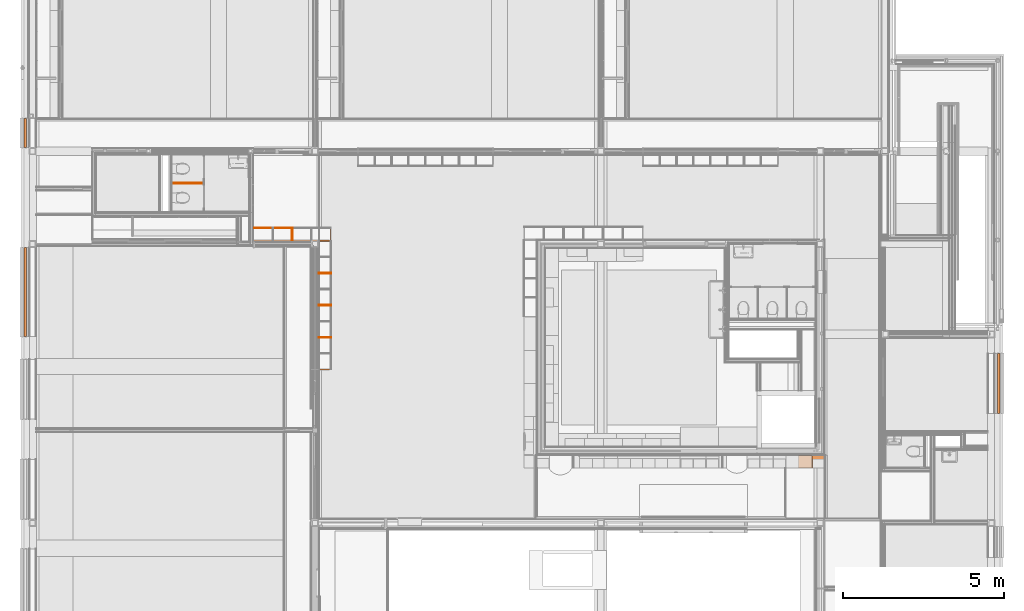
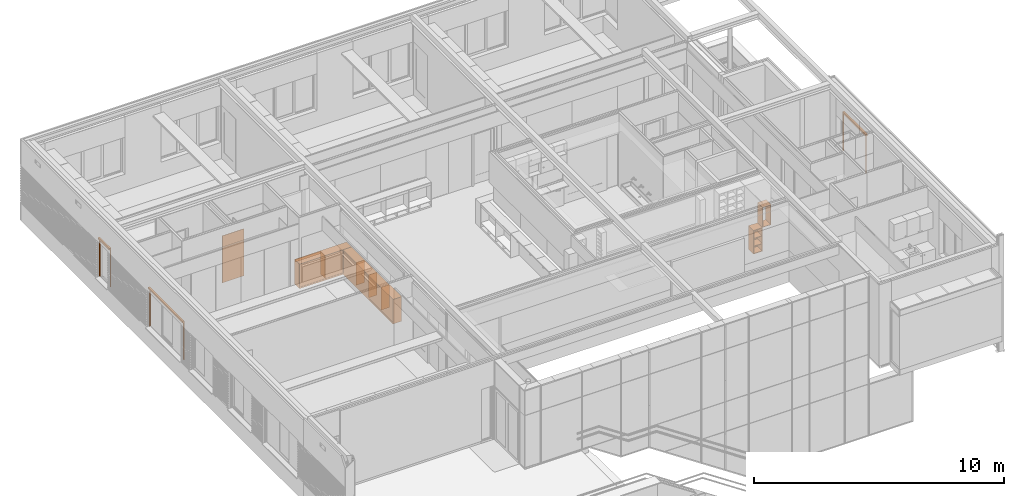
# One storey, part 132 of 137: 13 proxies.
"""IFC2X3 building model written with IfcOpenShell, lengths in millimetres."""

from ifc_helpers import new_model, entity, si_unit, converted_unit, derived_unit, money_unit, direction, frame, origin_with_axes, place, context, subcontext, project, spatial, open_shell, faceted_brep, surface_model, material, type_object, element, save


model = new_model("IFC2X3")

# Units and contexts
model_context = context("Model", 3, precision=0.01, world=origin_with_axes(), true_north=direction((0.0, 1.0)))
body_context = subcontext(model_context, "Body", "Model", "MODEL_VIEW")
ifc_project = project(units=[si_unit("LENGTHUNIT", "METRE", prefix="MILLI"), si_unit("AREAUNIT", "SQUARE_METRE"), si_unit("VOLUMEUNIT", "CUBIC_METRE"), converted_unit("PLANEANGLEUNIT", "DEGREE", entity("IfcPlaneAngleMeasure", 0.0174532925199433), si_unit("PLANEANGLEUNIT", "RADIAN"), dimensions=[0, 0, 0, 0, 0, 0, 0]), money_unit("EUR"), converted_unit("TIMEUNIT", "Year", entity("IfcTimeMeasure", 31556926.0), si_unit("TIMEUNIT", "SECOND"), dimensions=[0, 0, 1, 0, 0, 0, 0]), si_unit("MASSUNIT", "GRAM", prefix="KILO"), si_unit("THERMODYNAMICTEMPERATUREUNIT", "DEGREE_CELSIUS"), si_unit("LUMINOUSINTENSITYUNIT", "LUMEN"), si_unit("ENERGYUNIT", "JOULE", prefix="MEGA"), derived_unit("THERMALCONDUCTANCEUNIT", [(si_unit("POWERUNIT", "WATT"), 1), (si_unit("LENGTHUNIT", "METRE"), -1), (si_unit("THERMODYNAMICTEMPERATUREUNIT", "KELVIN"), -1)]), derived_unit("SPECIFICHEATCAPACITYUNIT", [(si_unit("ENERGYUNIT", "JOULE"), 1), (si_unit("MASSUNIT", "GRAM", prefix="KILO"), -1), (si_unit("THERMODYNAMICTEMPERATUREUNIT", "KELVIN"), -1)]), derived_unit("MASSDENSITYUNIT", [(si_unit("MASSUNIT", "GRAM", prefix="KILO"), 1), (si_unit("VOLUMEUNIT", "CUBIC_METRE"), -1)])], contexts=[model_context])

# Site, building, storey
site_placement = place(None, origin_with_axes())
site = spatial("IfcSite", under=ifc_project, at=site_placement, Name="Site", CompositionType="ELEMENT")
building_placement = place(site_placement, origin_with_axes())
building = spatial("IfcBuilding", under=site, at=building_placement, Name="Naam gebouw", CompositionType="ELEMENT")
storey_placement = place(building_placement, frame((0.0, 0.0, 3960.0), z_axis=(0.0, 0.0, 1.0), x_axis=(1.0, 0.0, 0.0)))
storey = spatial("IfcBuildingStorey", under=building, at=storey_placement, Name="1e verdieping", CompositionType="ELEMENT", Elevation=3960.0)

# Proxies
ifc_material_1 = material(Name="ALG - ALGEMEEN")
building_element_proxy_type_1 = type_object("IfcBuildingElementProxyType", Name="ALG - ALGEMEEN 20", PredefinedType="NOTDEFINED")
proxy_1_placement = place(storey_placement, frame((5405.000000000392, 21329.97621406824, 99.99999999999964), z_axis=(0.0, 0.0, 1.0), x_axis=(-1.0, 0.0, 0.0)))
element("IfcBuildingElementProxy", 1, at=proxy_1_placement, inside=storey, type_object=building_element_proxy_type_1, material=ifc_material_1, Name="_Wand-x", context=body_context, shape_type="Brep", body=[
    faceted_brep([(1000.000000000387, -9.999999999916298, 2290.0), (1000.000000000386, 10.00000000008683, 2290.0), (10.00000000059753, 10.00000000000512, 2290.0), (10.00000000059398, -9.99999999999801, 2290.0), (1000.000000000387, -9.999999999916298, 0.0), (1000.000000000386, 10.00000000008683, 0.0), (10.00000000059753, 10.00000000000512, 0.0), (10.00000000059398, -9.99999999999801, 0.0)], [[[0, 1, 2, 3]], [[1, 0, 4, 5]], [[1, 5, 6, 2]], [[7, 3, 2, 6]], [[4, 0, 3, 7]], [[5, 4, 7, 6]]]),
])
ifc_material_2 = material(Name="Hout AFW")
building_element_proxy_type_2 = type_object("IfcBuildingElementProxyType", Name="Hout AFW 18", PredefinedType="NOTDEFINED")
proxy_2_placement = place(storey_placement, frame((8135.000015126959, 19950.00381393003, 1062.0), z_axis=(0.0, 0.0, 1.0), x_axis=(-1.0, 0.0, 0.0)))
element("IfcBuildingElementProxy", 2, at=proxy_2_placement, inside=storey, type_object=building_element_proxy_type_2, material=ifc_material_2, Name="i HOUT_Wand-x", context=body_context, shape_type="Brep", body=[
    faceted_brep([(0.0, 18.00000000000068, 0.0), (1175.000015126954, 18.00000000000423, 0.0), (1175.000015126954, 0.0, 0.0), (0.0, 0.0, 0.0), (0.0, 18.00000000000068, 117.9999999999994), (1175.000015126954, 18.00000000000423, 117.9999999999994), (1175.000015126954, 0.0, 117.9999999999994), (0.0, 0.0, 117.9999999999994)], [[[0, 1, 2, 3]], [[4, 5, 1, 0]], [[2, 1, 5, 6]], [[3, 2, 6, 7]], [[4, 0, 3, 7]], [[7, 6, 5, 4]]]),
])
building_element_proxy_type_3 = type_object("IfcBuildingElementProxyType", Name="Onderkast recht 26", PredefinedType="NOTDEFINED")
proxy_3_placement = place(storey_placement, frame((8950.000000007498, 19549.99981121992, 0.0), z_axis=(0.0, 0.0, 1.0), x_axis=(0.0, 1.0, 0.0)))
element("IfcBuildingElementProxy", 3, at=proxy_3_placement, inside=storey, type_object=building_element_proxy_type_3, Name="_Leeg", context=body_context, shape_type="Brep", body=[
    faceted_brep([(-20.0, -400.0000000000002, 50.0), (-20.0, -400.0000000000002, 70.0), (-3980.000071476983, -400.0000000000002, 70.0), (-3980.000071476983, -400.0000000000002, 50.0), (-20.0, 0.0, 50.0), (-20.0, 0.0, 70.0), (-3980.000071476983, 0.0, 70.0), (-3980.000071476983, 0.0, 50.0)], [[[0, 1, 2, 3]], [[4, 5, 1, 0]], [[1, 5, 6, 2]], [[3, 2, 6, 7]], [[0, 3, 7, 4]], [[7, 6, 5, 4]]]),
    faceted_brep([(-20.0, -400.0000000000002, 1180.0), (-20.0, -400.0000000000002, 1200.0), (-3980.000071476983, -400.0000000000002, 1200.0), (-3980.000071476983, -400.0000000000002, 1180.0), (-20.0, 0.0, 1180.0), (-20.0, 0.0, 1200.0), (-3980.000071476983, 0.0, 1200.0), (-3980.000071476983, 0.0, 1180.0)], [[[0, 1, 2, 3]], [[4, 5, 1, 0]], [[1, 5, 6, 2]], [[3, 2, 6, 7]], [[0, 3, 7, 4]], [[7, 6, 5, 4]]]),
    faceted_brep([(0.0, 0.0, 50.0), (0.0, 0.0, 1200.0), (0.0, -400.0000000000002, 1200.0), (0.0, -400.0000000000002, 50.0), (-20.0, 0.0, 50.0), (-20.0, 0.0, 1200.0), (-20.0, -400.0000000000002, 1200.0), (-20.0, -400.0000000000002, 50.0)], [[[0, 1, 2, 3]], [[4, 5, 1, 0]], [[1, 5, 6, 2]], [[3, 2, 6, 7]], [[0, 3, 7, 4]], [[7, 6, 5, 4]]]),
    faceted_brep([(-4000.000071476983, -400.0000000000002, 50.0), (-4000.000071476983, -400.0000000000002, 1200.0), (-4000.000071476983, 0.0, 1200.0), (-4000.000071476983, 0.0, 50.0), (-3980.000071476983, -400.0000000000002, 50.0), (-3980.000071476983, -400.0000000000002, 1200.0), (-3980.000071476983, 0.0, 1200.0), (-3980.000071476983, 0.0, 50.0)], [[[0, 1, 2, 3]], [[4, 5, 1, 0]], [[1, 5, 6, 2]], [[3, 2, 6, 7]], [[0, 3, 7, 4]], [[7, 6, 5, 4]]]),
    faceted_brep([(-3980.000071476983, -10.0, 70.0), (-3980.000071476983, -10.0, 1180.0), (-20.00000000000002, -10.0, 1180.0), (-20.00000000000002, -10.0, 70.0), (-3980.000071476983, -20.0, 70.0), (-3980.000071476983, -20.0, 1180.0), (-20.00000000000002, -20.0, 1180.0), (-20.00000000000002, -20.0, 70.0)], [[[0, 1, 2, 3]], [[4, 5, 1, 0]], [[1, 5, 6, 2]], [[3, 2, 6, 7]], [[0, 3, 7, 4]], [[7, 6, 5, 4]]]),
    faceted_brep([(0.0, -400.0000000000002, 0.0), (0.0, -400.0000000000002, 50.0), (-4000.000071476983, -400.0000000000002, 50.0), (-4000.000071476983, -400.0000000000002, 0.0), (0.0, 0.0, 0.0), (0.0, 0.0, 50.0), (-4000.000071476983, 0.0, 50.0), (-4000.000071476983, 0.0, 0.0)], [[[0, 1, 2, 3]], [[4, 5, 1, 0]], [[1, 5, 6, 2]], [[3, 2, 6, 7]], [[0, 3, 7, 4]], [[7, 6, 5, 4]]]),
])
proxy_4_placement = place(storey_placement, frame((6940.0, 19549.99981121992, 0.0), z_axis=(0.0, 0.0, 1.0), x_axis=(-1.0, 0.0, 0.0)))
element("IfcBuildingElementProxy", 4, at=proxy_4_placement, inside=storey, type_object=building_element_proxy_type_3, Name="_Leeg", context=body_context, shape_type="Brep", body=[
    faceted_brep([(-2390.000000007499, -399.9999999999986, 49.99999999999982), (-20.00000000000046, -399.9999999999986, 49.99999999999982), (-20.00000000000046, -399.9999999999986, 70.00000000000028), (-2390.000000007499, -399.9999999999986, 70.00000000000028), (-19.99999999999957, 0.0, 49.99999999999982), (-2390.000000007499, 0.0, 49.99999999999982), (-19.99999999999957, 0.0, 70.00000000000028), (-2390.000000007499, 0.0, 70.00000000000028)], [[[0, 1, 2, 3]], [[4, 1, 0, 5]], [[1, 4, 6, 2]], [[3, 2, 6, 7]], [[5, 0, 3, 7]], [[4, 5, 7, 6]]]),
    faceted_brep([(-20.00000000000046, -10.00000000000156, 70.00000000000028), (-2390.000000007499, -9.99999999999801, 70.00000000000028), (-2390.000000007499, -9.99999999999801, 1180.0), (-20.00000000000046, -10.00000000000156, 1180.0), (-2390.000000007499, -19.99999999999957, 70.00000000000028), (-20.00000000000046, -19.99999999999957, 70.00000000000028), (-2390.000000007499, -19.99999999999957, 1180.0), (-20.00000000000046, -19.99999999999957, 1180.0)], [[[0, 1, 2, 3]], [[4, 1, 0, 5]], [[1, 4, 6, 2]], [[3, 2, 6, 7]], [[5, 0, 3, 7]], [[4, 5, 7, 6]]]),
    faceted_brep([(-2410.000000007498, -399.9999999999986, 0.0), (0.0, -399.9999999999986, 0.0), (0.0, -399.9999999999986, 49.99999999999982), (-2410.000000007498, -399.9999999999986, 49.99999999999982), (0.0, 0.0, 0.0), (-2410.000000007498, 0.0, 0.0), (0.0, 0.0, 49.99999999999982), (-2410.000000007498, 0.0, 49.99999999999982)], [[[0, 1, 2, 3]], [[4, 1, 0, 5]], [[1, 4, 6, 2]], [[3, 2, 6, 7]], [[5, 0, 3, 7]], [[4, 5, 7, 6]]]),
    faceted_brep([(-2390.000000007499, -399.9999999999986, 1180.0), (-20.00000000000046, -399.9999999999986, 1180.0), (-20.00000000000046, -399.9999999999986, 1200.0), (-2390.000000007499, -399.9999999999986, 1200.0), (-19.99999999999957, 0.0, 1180.0), (-2390.000000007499, 0.0, 1180.0), (-19.99999999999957, 0.0, 1200.0), (-2390.000000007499, 0.0, 1200.0)], [[[0, 1, 2, 3]], [[4, 1, 0, 5]], [[1, 4, 6, 2]], [[3, 2, 6, 7]], [[5, 0, 3, 7]], [[4, 5, 7, 6]]]),
    faceted_brep([(0.0, -399.9999999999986, 49.99999999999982), (0.0, 0.0, 49.99999999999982), (0.0, 0.0, 1200.0), (0.0, -399.9999999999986, 1200.0), (-19.99999999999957, 0.0, 49.99999999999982), (-20.00000000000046, -399.9999999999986, 49.99999999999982), (-19.99999999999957, 0.0, 1200.0), (-20.00000000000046, -399.9999999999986, 1200.0)], [[[0, 1, 2, 3]], [[4, 1, 0, 5]], [[1, 4, 6, 2]], [[3, 2, 6, 7]], [[5, 0, 3, 7]], [[4, 5, 7, 6]]]),
    faceted_brep([(-2410.000000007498, 0.0, 49.99999999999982), (-2410.000000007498, -399.9999999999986, 49.99999999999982), (-2410.000000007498, -399.9999999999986, 1200.0), (-2410.000000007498, 0.0, 1200.0), (-2390.000000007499, -399.9999999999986, 49.99999999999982), (-2390.000000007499, 0.0, 49.99999999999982), (-2390.000000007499, -399.9999999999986, 1200.0), (-2390.000000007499, 0.0, 1200.0)], [[[0, 1, 2, 3]], [[4, 1, 0, 5]], [[1, 4, 6, 2]], [[3, 2, 6, 7]], [[5, 0, 3, 7]], [[4, 5, 7, 6]]]),
])
proxy_5_placement = place(storey_placement, frame((24234.99904235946, 12904.99778166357, 49.99999999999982), z_axis=(0.0, 0.0, 1.0), x_axis=(1.0, 0.0, 0.0)))
element("IfcBuildingElementProxy", 5, at=proxy_5_placement, inside=storey, type_object=building_element_proxy_type_3, Name="_Leeg", context=body_context, shape_type="Brep", body=[
    faceted_brep([(-20.0, -399.9999999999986, 366.6666666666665), (-20.0, -399.9999999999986, 384.6666666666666), (-390.0000023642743, -399.9999999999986, 384.6666666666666), (-390.0000023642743, -399.9999999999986, 366.6666666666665), (-20.0, -20.0, 366.6666666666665), (-20.0, -20.0, 384.6666666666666), (-390.0000023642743, -20.0, 384.6666666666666), (-390.0000023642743, -20.0, 366.6666666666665)], [[[0, 1, 2, 3]], [[4, 5, 1, 0]], [[1, 5, 6, 2]], [[3, 2, 6, 7]], [[0, 3, 7, 4]], [[7, 6, 5, 4]]]),
    faceted_brep([(-20.0, -399.9999999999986, 743.3333333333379), (-20.0, -399.9999999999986, 761.3333333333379), (-390.0000023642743, -399.9999999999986, 761.3333333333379), (-390.0000023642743, -399.9999999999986, 743.3333333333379), (-20.0, -20.0, 743.3333333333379), (-20.0, -20.0, 761.3333333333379), (-390.0000023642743, -20.0, 761.3333333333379), (-390.0000023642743, -20.0, 743.3333333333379)], [[[0, 1, 2, 3]], [[4, 5, 1, 0]], [[1, 5, 6, 2]], [[3, 2, 6, 7]], [[0, 3, 7, 4]], [[7, 6, 5, 4]]]),
    faceted_brep([(-20.0, -399.9999999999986, 0.0), (-20.0, -399.9999999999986, 20.0), (-390.0000023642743, -399.9999999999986, 20.0), (-390.0000023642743, -399.9999999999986, 0.0), (-20.0, 0.0, 0.0), (-20.0, 0.0, 20.0), (-390.0000023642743, 0.0, 20.0), (-390.0000023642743, 0.0, 0.0)], [[[0, 1, 2, 3]], [[4, 5, 1, 0]], [[1, 5, 6, 2]], [[3, 2, 6, 7]], [[0, 3, 7, 4]], [[7, 6, 5, 4]]]),
    faceted_brep([(-20.0, -399.9999999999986, 1129.999999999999), (-20.0, -399.9999999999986, 1149.999999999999), (-390.0000023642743, -399.9999999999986, 1149.999999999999), (-390.0000023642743, -399.9999999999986, 1129.999999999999), (-20.0, 0.0, 1129.999999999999), (-20.0, 0.0, 1149.999999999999), (-390.0000023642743, 0.0, 1149.999999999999), (-390.0000023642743, 0.0, 1129.999999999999)], [[[0, 1, 2, 3]], [[4, 5, 1, 0]], [[1, 5, 6, 2]], [[3, 2, 6, 7]], [[0, 3, 7, 4]], [[7, 6, 5, 4]]]),
    faceted_brep([(0.0, 0.0, 0.0), (0.0, 0.0, 1149.999999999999), (0.0, -399.9999999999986, 1149.999999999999), (0.0, -399.9999999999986, 0.0), (-20.0, 0.0, 0.0), (-20.0, 0.0, 1149.999999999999), (-20.0, -399.9999999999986, 1149.999999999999), (-20.0, -399.9999999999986, 0.0)], [[[0, 1, 2, 3]], [[4, 5, 1, 0]], [[1, 5, 6, 2]], [[3, 2, 6, 7]], [[0, 3, 7, 4]], [[7, 6, 5, 4]]]),
    faceted_brep([(-410.0000023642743, -399.9999999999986, 0.0), (-410.0000023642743, -399.9999999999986, 1149.999999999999), (-410.0000023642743, 0.0, 1149.999999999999), (-410.0000023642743, 0.0, 0.0), (-390.0000023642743, -399.9999999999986, 0.0), (-390.0000023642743, -399.9999999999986, 1149.999999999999), (-390.0000023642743, 0.0, 1149.999999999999), (-390.0000023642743, 0.0, 0.0)], [[[0, 1, 2, 3]], [[4, 5, 1, 0]], [[1, 5, 6, 2]], [[3, 2, 6, 7]], [[0, 3, 7, 4]], [[7, 6, 5, 4]]]),
    faceted_brep([(-390.0000023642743, -10.0, 20.0), (-390.0000023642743, -10.0, 1129.999999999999), (-20.00000000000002, -10.0, 1129.999999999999), (-20.00000000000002, -10.0, 20.0), (-390.0000023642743, -20.0, 20.0), (-390.0000023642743, -20.0, 1129.999999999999), (-20.00000000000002, -20.0, 1129.999999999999), (-20.00000000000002, -20.0, 20.0)], [[[0, 1, 2, 3]], [[4, 5, 1, 0]], [[1, 5, 6, 2]], [[3, 2, 6, 7]], [[0, 3, 7, 4]], [[7, 6, 5, 4]]]),
])
proxy_6_placement = place(storey_placement, frame((24234.99903999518, 12504.99778166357, 1199.999999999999), z_axis=(0.0, 0.0, 1.0), x_axis=(-1.0, 0.0, 0.0)))
element("IfcBuildingElementProxy", 6, at=proxy_6_placement, inside=storey, type_object=building_element_proxy_type_3, Name="_Leeg", context=body_context, shape_type="Brep", body=[
    faceted_brep([(-20.0, -399.9999999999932, 0.0), (-20.0, -399.9999999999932, 20.0), (-379.9999999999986, -399.9999999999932, 20.0), (-379.9999999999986, -399.9999999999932, 0.0), (-20.0, 0.0, 0.0), (-20.0, 0.0, 20.0), (-379.9999999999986, 0.0, 20.0), (-379.9999999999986, 0.0, 0.0)], [[[0, 1, 2, 3]], [[4, 5, 1, 0]], [[1, 5, 6, 2]], [[3, 2, 6, 7]], [[0, 3, 7, 4]], [[7, 6, 5, 4]]]),
    faceted_brep([(-20.0, -399.9999999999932, 970.0000000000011), (-20.0, -399.9999999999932, 990.0000000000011), (-379.9999999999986, -399.9999999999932, 990.0000000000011), (-379.9999999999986, -399.9999999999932, 970.0000000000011), (-20.0, 0.0, 970.0000000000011), (-20.0, 0.0, 990.0000000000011), (-379.9999999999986, 0.0, 990.0000000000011), (-379.9999999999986, 0.0, 970.0000000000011)], [[[0, 1, 2, 3]], [[4, 5, 1, 0]], [[1, 5, 6, 2]], [[3, 2, 6, 7]], [[0, 3, 7, 4]], [[7, 6, 5, 4]]]),
    faceted_brep([(0.0, 0.0, 0.0), (0.0, 0.0, 990.0000000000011), (0.0, -399.9999999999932, 990.0000000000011), (0.0, -399.9999999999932, 0.0), (-20.0, 0.0, 0.0), (-20.0, 0.0, 990.0000000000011), (-20.0, -399.9999999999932, 990.0000000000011), (-20.0, -399.9999999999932, 0.0)], [[[0, 1, 2, 3]], [[4, 5, 1, 0]], [[1, 5, 6, 2]], [[3, 2, 6, 7]], [[0, 3, 7, 4]], [[7, 6, 5, 4]]]),
    faceted_brep([(-399.9999999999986, -399.9999999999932, 0.0), (-399.9999999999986, -399.9999999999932, 990.0000000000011), (-399.9999999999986, 0.0, 990.0000000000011), (-399.9999999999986, 0.0, 0.0), (-379.9999999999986, -399.9999999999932, 0.0), (-379.9999999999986, -399.9999999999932, 990.0000000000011), (-379.9999999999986, 0.0, 990.0000000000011), (-379.9999999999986, 0.0, 0.0)], [[[0, 1, 2, 3]], [[4, 5, 1, 0]], [[1, 5, 6, 2]], [[3, 2, 6, 7]], [[0, 3, 7, 4]], [[7, 6, 5, 4]]]),
])
building_element_proxy_type_4 = type_object("IfcBuildingElementProxyType", Name="Screen 26 KM", PredefinedType="NOTDEFINED")
proxy_7_placement = place(storey_placement, frame((29981.99999999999, 14205.99778166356, 794.9999999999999), z_axis=(0.0, 0.0, 1.0), x_axis=(0.0, 1.0, 0.0)))
element("IfcBuildingElementProxy", 7, at=proxy_7_placement, inside=storey, type_object=building_element_proxy_type_4, Name="_Object-x", context=body_context, shape_type="SurfaceModel", body=[
    faceted_brep([(0.0, 0.0, 0.0), (0.0, -30.0, 0.0), (0.0, -30.0, 1815.0), (0.0, 0.0, 1815.0), (40.0, 0.0, 0.0), (40.0, -4.999999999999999, 0.0), (37.0, -4.999999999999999, 0.0), (37.0, -3.0, 0.0), (3.0, -3.0, 0.0), (3.0, -27.0, 0.0), (37.0, -27.0, 0.0), (37.0, -25.0, 0.0), (40.0, -25.0, 0.0), (40.0, -30.0, 0.0), (40.0, -30.0, 1815.0), (40.0, -25.0, 1815.0), (37.0, -25.0, 1815.0), (37.0, -27.0, 1815.0), (3.0, -27.0, 1815.0), (3.0, -3.0, 1815.0), (37.0, -3.0, 1815.0), (37.0, -4.999999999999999, 1815.0), (40.0, -4.999999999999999, 1815.0), (40.0, 0.0, 1815.0)], [[[0, 1, 2, 3]], [[0, 4, 5, 6, 7, 8, 9, 10, 11, 12, 13, 1]], [[1, 13, 14, 2]], [[3, 2, 14, 15, 16, 17, 18, 19, 20, 21, 22, 23]], [[4, 0, 3, 23]], [[5, 4, 23, 22]], [[6, 5, 22, 21]], [[7, 6, 21, 20]], [[8, 7, 20, 19]], [[9, 8, 19, 18]], [[10, 9, 18, 17]], [[11, 10, 17, 16]], [[12, 11, 16, 15]], [[13, 12, 15, 14]]]),
    faceted_brep([(1850.000000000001, 0.0, 0.0), (1850.000000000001, 0.0, 1815.0), (1850.000000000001, -30.0, 1815.0), (1850.000000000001, -30.0, 0.0), (1810.000000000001, 0.0, 0.0), (1810.000000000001, 0.0, 1815.0), (1810.000000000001, -4.999999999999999, 1815.0), (1813.000000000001, -4.999999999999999, 1815.0), (1813.000000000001, -3.0, 1815.0), (1847.000000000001, -3.0, 1815.0), (1847.000000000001, -27.0, 1815.0), (1813.000000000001, -27.0, 1815.0), (1813.000000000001, -25.0, 1815.0), (1810.000000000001, -25.0, 1815.0), (1810.000000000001, -30.0, 1815.0), (1810.000000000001, -30.0, 0.0), (1810.000000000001, -25.0, 0.0), (1813.000000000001, -25.0, 0.0), (1813.000000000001, -27.0, 0.0), (1847.000000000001, -27.0, 0.0), (1847.000000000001, -3.0, 0.0), (1813.000000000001, -3.0, 0.0), (1813.000000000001, -4.999999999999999, 0.0), (1810.000000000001, -4.999999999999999, 0.0)], [[[0, 1, 2, 3]], [[4, 5, 1, 0]], [[1, 5, 6, 7, 8, 9, 10, 11, 12, 13, 14, 2]], [[3, 2, 14, 15]], [[0, 3, 15, 16, 17, 18, 19, 20, 21, 22, 23, 4]], [[23, 6, 5, 4]], [[22, 7, 6, 23]], [[21, 8, 7, 22]], [[20, 9, 8, 21]], [[19, 10, 9, 20]], [[18, 11, 10, 19]], [[17, 12, 11, 18]], [[16, 13, 12, 17]], [[15, 14, 13, 16]]]),
    surface_model("IfcShellBasedSurfaceModel", [(0.0, 0.0, 1900.0), (0.0, 0.0, 1815.0), (0.0, -85.0, 1815.0), (0.0, -85.0, 1900.0)], [open_shell([[[0, 1, 2, 3]]])]),
    surface_model("IfcShellBasedSurfaceModel", [(0.01, 0.0, 1900.0), (0.009999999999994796, -85.0, 1900.0), (1849.990000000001, -85.00000000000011, 1900.0), (1849.990000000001, 0.0, 1900.0), (0.01000000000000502, 0.0, 1818.0), (0.01000000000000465, -6.0, 1818.0), (0.01000000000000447, -6.0, 1821.0), (0.01000000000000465, -3.0, 1821.0), (0.01, -3.0, 1897.0), (0.009999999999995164, -82.0, 1897.0), (0.01, -82.0, 1818.0), (0.01000000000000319, -30.0, 1818.0), (0.01000000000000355, -30.0, 1812.0), (0.01000000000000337, -33.0, 1812.0), (0.01000000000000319, -33.0, 1815.0), (0.01, -85.0, 1815.0), (1849.990000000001, -85.00000000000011, 1815.0), (1849.990000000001, -33.00000000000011, 1815.0), (1849.990000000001, -33.00000000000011, 1812.0), (1849.990000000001, -30.00000000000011, 1812.0), (1849.990000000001, -30.00000000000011, 1818.0), (1849.990000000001, -82.00000000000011, 1818.0), (1849.990000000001, -82.00000000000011, 1897.0), (1849.990000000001, -3.000000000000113, 1897.0), (1849.990000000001, -3.000000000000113, 1821.0), (1849.990000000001, -6.000000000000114, 1821.0), (1849.990000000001, -6.000000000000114, 1818.0), (1849.990000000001, 0.0, 1818.0)], [open_shell([[[0, 1, 2, 3]], [[0, 4, 5, 6, 7, 8, 9, 10, 11, 12, 13, 14, 15, 1]], [[1, 15, 16, 2]], [[3, 2, 16, 17, 18, 19, 20, 21, 22, 23, 24, 25, 26, 27]], [[4, 0, 3, 27]], [[13, 12, 19, 18]], [[14, 13, 18, 17]], [[15, 14, 17, 16]]])]),
    surface_model("IfcShellBasedSurfaceModel", [(1849.990000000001, 0.0, 1900.0), (1849.990000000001, 0.0, 1815.0), (1849.990000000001, -85.00000000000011, 1815.0), (1849.990000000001, -85.00000000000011, 1900.0)], [open_shell([[[0, 1, 2, 3]]])]),
])
proxy_8_placement = place(storey_placement, frame((-81.99999999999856, 23339.99984707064, 794.9999999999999), z_axis=(0.0, 0.0, 1.0), x_axis=(0.0, -1.0, 0.0)))
element("IfcBuildingElementProxy", 8, at=proxy_8_placement, inside=storey, type_object=building_element_proxy_type_4, Name="_Object-x", context=body_context, shape_type="SurfaceModel", body=[
    faceted_brep([(0.0, 0.0, 0.0), (0.0, -30.0, 0.0), (0.0, -30.0, 1815.0), (0.0, 0.0, 1815.0), (40.0, 0.0, 0.0), (40.0, -4.999999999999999, 0.0), (37.0, -4.999999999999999, 0.0), (37.0, -3.0, 0.0), (3.0, -3.0, 0.0), (3.0, -27.0, 0.0), (37.0, -27.0, 0.0), (37.0, -25.0, 0.0), (40.0, -25.0, 0.0), (40.0, -30.0, 0.0), (40.0, -30.0, 1815.0), (40.0, -25.0, 1815.0), (37.0, -25.0, 1815.0), (37.0, -27.0, 1815.0), (3.0, -27.0, 1815.0), (3.0, -3.0, 1815.0), (37.0, -3.0, 1815.0), (37.0, -4.999999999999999, 1815.0), (40.0, -4.999999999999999, 1815.0), (40.0, 0.0, 1815.0)], [[[0, 1, 2, 3]], [[0, 4, 5, 6, 7, 8, 9, 10, 11, 12, 13, 1]], [[1, 13, 14, 2]], [[3, 2, 14, 15, 16, 17, 18, 19, 20, 21, 22, 23]], [[4, 0, 3, 23]], [[5, 4, 23, 22]], [[6, 5, 22, 21]], [[7, 6, 21, 20]], [[8, 7, 20, 19]], [[9, 8, 19, 18]], [[10, 9, 18, 17]], [[11, 10, 17, 16]], [[12, 11, 16, 15]], [[13, 12, 15, 14]]]),
    faceted_brep([(899.9999999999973, 0.0, 0.0), (899.9999999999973, 0.0, 1815.0), (899.9999999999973, -30.0, 1815.0), (899.9999999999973, -30.0, 0.0), (859.9999999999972, 0.0, 0.0), (859.9999999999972, 0.0, 1815.0), (859.9999999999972, -4.999999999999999, 1815.0), (862.9999999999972, -4.999999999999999, 1815.0), (862.9999999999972, -3.0, 1815.0), (896.9999999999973, -3.0, 1815.0), (896.9999999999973, -27.0, 1815.0), (862.9999999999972, -27.0, 1815.0), (862.9999999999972, -25.0, 1815.0), (859.9999999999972, -25.0, 1815.0), (859.9999999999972, -30.0, 1815.0), (859.9999999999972, -30.0, 0.0), (859.9999999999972, -25.0, 0.0), (862.9999999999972, -25.0, 0.0), (862.9999999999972, -27.0, 0.0), (896.9999999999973, -27.0, 0.0), (896.9999999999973, -3.0, 0.0), (862.9999999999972, -3.0, 0.0), (862.9999999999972, -4.999999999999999, 0.0), (859.9999999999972, -4.999999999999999, 0.0)], [[[0, 1, 2, 3]], [[4, 5, 1, 0]], [[1, 5, 6, 7, 8, 9, 10, 11, 12, 13, 14, 2]], [[3, 2, 14, 15]], [[0, 3, 15, 16, 17, 18, 19, 20, 21, 22, 23, 4]], [[23, 6, 5, 4]], [[22, 7, 6, 23]], [[21, 8, 7, 22]], [[20, 9, 8, 21]], [[19, 10, 9, 20]], [[18, 11, 10, 19]], [[17, 12, 11, 18]], [[16, 13, 12, 17]], [[15, 14, 13, 16]]]),
    surface_model("IfcShellBasedSurfaceModel", [(0.0, 0.0, 1900.0), (0.0, 0.0, 1815.0), (0.0, -85.0, 1815.0), (0.0, -85.0, 1900.0)], [open_shell([[[0, 1, 2, 3]]])]),
    surface_model("IfcShellBasedSurfaceModel", [(0.01, 0.0, 1900.0), (0.009999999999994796, -85.0, 1900.0), (899.9899999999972, -85.00000000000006, 1900.0), (899.9899999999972, 0.0, 1900.0), (0.01000000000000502, 0.0, 1818.0), (0.01000000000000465, -6.0, 1818.0), (0.01000000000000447, -6.0, 1821.0), (0.01000000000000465, -3.0, 1821.0), (0.01, -3.0, 1897.0), (0.009999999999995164, -82.0, 1897.0), (0.01, -82.0, 1818.0), (0.01000000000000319, -30.0, 1818.0), (0.01000000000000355, -30.0, 1812.0), (0.01000000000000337, -33.0, 1812.0), (0.01000000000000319, -33.0, 1815.0), (0.01, -85.0, 1815.0), (899.9899999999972, -85.00000000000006, 1815.0), (899.9899999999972, -33.00000000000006, 1815.0), (899.9899999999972, -33.00000000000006, 1812.0), (899.9899999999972, -30.00000000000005, 1812.0), (899.9899999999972, -30.00000000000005, 1818.0), (899.9899999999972, -82.00000000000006, 1818.0), (899.9899999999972, -82.00000000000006, 1897.0), (899.9899999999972, -3.000000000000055, 1897.0), (899.9899999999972, -3.000000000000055, 1821.0), (899.9899999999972, -6.000000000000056, 1821.0), (899.9899999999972, -6.000000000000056, 1818.0), (899.9899999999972, 0.0, 1818.0)], [open_shell([[[0, 1, 2, 3]], [[0, 4, 5, 6, 7, 8, 9, 10, 11, 12, 13, 14, 15, 1]], [[1, 15, 16, 2]], [[3, 2, 16, 17, 18, 19, 20, 21, 22, 23, 24, 25, 26, 27]], [[4, 0, 3, 27]], [[13, 12, 19, 18]], [[14, 13, 18, 17]], [[15, 14, 17, 16]]])]),
    surface_model("IfcShellBasedSurfaceModel", [(899.9899999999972, 0.0, 1900.0), (899.9899999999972, 0.0, 1815.0), (899.9899999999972, -85.00000000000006, 1815.0), (899.9899999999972, -85.00000000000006, 1900.0)], [open_shell([[[0, 1, 2, 3]]])]),
])
proxy_9_placement = place(storey_placement, frame((-81.99999999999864, 19334.9998112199, 794.9999999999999), z_axis=(0.0, 0.0, 1.0), x_axis=(0.0, -1.0, 0.0)))
element("IfcBuildingElementProxy", 9, at=proxy_9_placement, inside=storey, type_object=building_element_proxy_type_4, Name="_Object-x", context=body_context, shape_type="SurfaceModel", body=[
    faceted_brep([(0.0, 0.0, 0.0), (0.0, -30.0, 0.0), (0.0, -30.0, 1815.0), (0.0, 0.0, 1815.0), (40.0, 0.0, 0.0), (40.0, -4.999999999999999, 0.0), (37.0, -4.999999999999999, 0.0), (37.0, -3.0, 0.0), (3.0, -3.0, 0.0), (3.0, -27.0, 0.0), (37.0, -27.0, 0.0), (37.0, -25.0, 0.0), (40.0, -25.0, 0.0), (40.0, -30.0, 0.0), (40.0, -30.0, 1815.0), (40.0, -25.0, 1815.0), (37.0, -25.0, 1815.0), (37.0, -27.0, 1815.0), (3.0, -27.0, 1815.0), (3.0, -3.0, 1815.0), (37.0, -3.0, 1815.0), (37.0, -4.999999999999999, 1815.0), (40.0, -4.999999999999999, 1815.0), (40.0, 0.0, 1815.0)], [[[0, 1, 2, 3]], [[0, 4, 5, 6, 7, 8, 9, 10, 11, 12, 13, 1]], [[1, 13, 14, 2]], [[3, 2, 14, 15, 16, 17, 18, 19, 20, 21, 22, 23]], [[4, 0, 3, 23]], [[5, 4, 23, 22]], [[6, 5, 22, 21]], [[7, 6, 21, 20]], [[8, 7, 20, 19]], [[9, 8, 19, 18]], [[10, 9, 18, 17]], [[11, 10, 17, 16]], [[12, 11, 16, 15]], [[13, 12, 15, 14]]]),
    faceted_brep([(2749.999999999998, 0.0, 0.0), (2749.999999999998, 0.0, 1815.0), (2749.999999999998, -30.0, 1815.0), (2749.999999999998, -30.0, 0.0), (2709.999999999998, 0.0, 0.0), (2709.999999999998, 0.0, 1815.0), (2709.999999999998, -4.999999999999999, 1815.0), (2712.999999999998, -4.999999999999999, 1815.0), (2712.999999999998, -3.0, 1815.0), (2746.999999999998, -3.0, 1815.0), (2746.999999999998, -27.0, 1815.0), (2712.999999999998, -27.0, 1815.0), (2712.999999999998, -25.0, 1815.0), (2709.999999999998, -25.0, 1815.0), (2709.999999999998, -30.0, 1815.0), (2709.999999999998, -30.0, 0.0), (2709.999999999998, -25.0, 0.0), (2712.999999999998, -25.0, 0.0), (2712.999999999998, -27.0, 0.0), (2746.999999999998, -27.0, 0.0), (2746.999999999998, -3.0, 0.0), (2712.999999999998, -3.0, 0.0), (2712.999999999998, -4.999999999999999, 0.0), (2709.999999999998, -4.999999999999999, 0.0)], [[[0, 1, 2, 3]], [[4, 5, 1, 0]], [[1, 5, 6, 7, 8, 9, 10, 11, 12, 13, 14, 2]], [[3, 2, 14, 15]], [[0, 3, 15, 16, 17, 18, 19, 20, 21, 22, 23, 4]], [[23, 6, 5, 4]], [[22, 7, 6, 23]], [[21, 8, 7, 22]], [[20, 9, 8, 21]], [[19, 10, 9, 20]], [[18, 11, 10, 19]], [[17, 12, 11, 18]], [[16, 13, 12, 17]], [[15, 14, 13, 16]]]),
    surface_model("IfcShellBasedSurfaceModel", [(0.0, 0.0, 1900.0), (0.0, 0.0, 1815.0), (0.0, -85.0, 1815.0), (0.0, -85.0, 1900.0)], [open_shell([[[0, 1, 2, 3]]])]),
    surface_model("IfcShellBasedSurfaceModel", [(0.01, 0.0, 1900.0), (0.009999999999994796, -85.0, 1900.0), (2749.989999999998, -85.00000000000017, 1900.0), (2749.989999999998, 0.0, 1900.0), (0.01000000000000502, 0.0, 1818.0), (0.01000000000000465, -6.0, 1818.0), (0.01000000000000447, -6.0, 1821.0), (0.01000000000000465, -3.0, 1821.0), (0.01, -3.0, 1897.0), (0.009999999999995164, -82.0, 1897.0), (0.01, -82.0, 1818.0), (0.01000000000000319, -30.0, 1818.0), (0.01000000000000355, -30.0, 1812.0), (0.01000000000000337, -33.0, 1812.0), (0.01000000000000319, -33.0, 1815.0), (0.01, -85.0, 1815.0), (2749.989999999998, -85.00000000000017, 1815.0), (2749.989999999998, -33.00000000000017, 1815.0), (2749.989999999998, -33.00000000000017, 1812.0), (2749.989999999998, -30.00000000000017, 1812.0), (2749.989999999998, -30.00000000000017, 1818.0), (2749.989999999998, -82.00000000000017, 1818.0), (2749.989999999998, -82.00000000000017, 1897.0), (2749.989999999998, -3.000000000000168, 1897.0), (2749.989999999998, -3.000000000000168, 1821.0), (2749.989999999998, -6.000000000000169, 1821.0), (2749.989999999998, -6.000000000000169, 1818.0), (2749.989999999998, 0.0, 1818.0)], [open_shell([[[0, 1, 2, 3]], [[0, 4, 5, 6, 7, 8, 9, 10, 11, 12, 13, 14, 15, 1]], [[1, 15, 16, 2]], [[3, 2, 16, 17, 18, 19, 20, 21, 22, 23, 24, 25, 26, 27]], [[4, 0, 3, 27]], [[13, 12, 19, 18]], [[14, 13, 18, 17]], [[15, 14, 17, 16]]])]),
    surface_model("IfcShellBasedSurfaceModel", [(2749.989999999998, 0.0, 1900.0), (2749.989999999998, 0.0, 1815.0), (2749.989999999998, -85.00000000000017, 1815.0), (2749.989999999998, -85.00000000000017, 1900.0)], [open_shell([[[0, 1, 2, 3]]])]),
])
building_element_proxy_type_5 = type_object("IfcBuildingElementProxyType", Name="Hout AFW 20", PredefinedType="NOTDEFINED")
proxy_10_placement = place(storey_placement, frame((8145.000015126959, 19569.96906246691, 70.00000000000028), z_axis=(0.0, 0.0, 1.0), x_axis=(0.0, 1.0, 0.0)))
element("IfcBuildingElementProxy", 10, at=proxy_10_placement, inside=storey, type_object=building_element_proxy_type_5, material=ifc_material_2, Name="i HOUT_Wand-x", context=body_context, shape_type="Brep", body=[
    faceted_brep([(0.0, 9.999999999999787, 0.0), (380.006513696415, 9.999999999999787, 0.0), (380.006513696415, -9.999999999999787, 0.0), (0.0, -9.999999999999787, 0.0), (0.0, 9.999999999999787, 1110.0), (380.006513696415, 9.999999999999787, 1110.0), (380.006513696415, -9.999999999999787, 1110.0), (0.0, -9.999999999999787, 1110.0)], [[[0, 1, 2, 3]], [[4, 5, 1, 0]], [[2, 1, 5, 6]], [[3, 2, 6, 7]], [[4, 0, 3, 7]], [[7, 6, 5, 4]]]),
])
proxy_11_placement = place(storey_placement, frame((8969.919021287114, 17549.9998112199, 70.00000000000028), z_axis=(0.0, 0.0, 1.0), x_axis=(1.0, 0.0, 0.0)))
element("IfcBuildingElementProxy", 11, at=proxy_11_placement, inside=storey, type_object=building_element_proxy_type_5, material=ifc_material_2, Name="i HOUT_Wand-x", context=body_context, shape_type="Brep", body=[
    faceted_brep([(0.0, 10.00000000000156, 0.0), (380.006513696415, 10.00000000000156, 0.0), (380.006513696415, -10.00000000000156, 0.0), (0.0, -10.00000000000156, 0.0), (0.0, 10.00000000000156, 1110.0), (380.006513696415, 10.00000000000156, 1110.0), (380.006513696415, -10.00000000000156, 1110.0), (0.0, -10.00000000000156, 1110.0)], [[[0, 1, 2, 3]], [[4, 5, 1, 0]], [[2, 1, 5, 6]], [[3, 2, 6, 7]], [[4, 0, 3, 7]], [[7, 6, 5, 4]]]),
])
proxy_12_placement = place(storey_placement, frame((8969.944136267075, 16554.99981090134, 70.00000000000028), z_axis=(0.0, 0.0, 1.0), x_axis=(1.0, 0.0, 0.0)))
element("IfcBuildingElementProxy", 12, at=proxy_12_placement, inside=storey, type_object=building_element_proxy_type_5, material=ifc_material_2, Name="i HOUT_Wand-x", context=body_context, shape_type="Brep", body=[
    faceted_brep([(0.0, 10.00000000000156, 0.0), (379.9813987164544, 10.00000000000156, 0.0), (379.9813987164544, -10.00000000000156, 0.0), (0.0, -10.00000000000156, 0.0), (0.0, 10.00000000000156, 1110.0), (379.9813987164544, 10.00000000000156, 1110.0), (379.9813987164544, -10.00000000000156, 1110.0), (0.0, -10.00000000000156, 1110.0)], [[[0, 1, 2, 3]], [[4, 5, 1, 0]], [[2, 1, 5, 6]], [[3, 2, 6, 7]], [[4, 0, 3, 7]], [[7, 6, 5, 4]]]),
])
proxy_13_placement = place(storey_placement, frame((8969.864221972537, 18544.99980970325, 70.00000000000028), z_axis=(0.0, 0.0, 1.0), x_axis=(1.0, 0.0, 0.0)))
element("IfcBuildingElementProxy", 13, at=proxy_13_placement, inside=storey, type_object=building_element_proxy_type_5, material=ifc_material_2, Name="i HOUT_Wand-x", context=body_context, shape_type="Brep", body=[
    faceted_brep([(0.0, 10.00000000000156, 0.0), (380.006513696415, 10.00000000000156, 0.0), (380.006513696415, -10.00000000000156, 0.0), (0.0, -10.00000000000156, 0.0), (0.0, 10.00000000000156, 1110.0), (380.006513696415, 10.00000000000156, 1110.0), (380.006513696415, -10.00000000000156, 1110.0), (0.0, -10.00000000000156, 1110.0)], [[[0, 1, 2, 3]], [[4, 5, 1, 0]], [[2, 1, 5, 6]], [[3, 2, 6, 7]], [[4, 0, 3, 7]], [[7, 6, 5, 4]]]),
])

save(model, "model.ifc")
